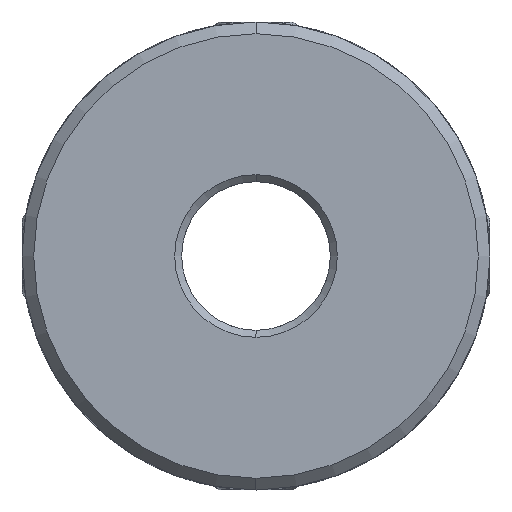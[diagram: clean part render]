
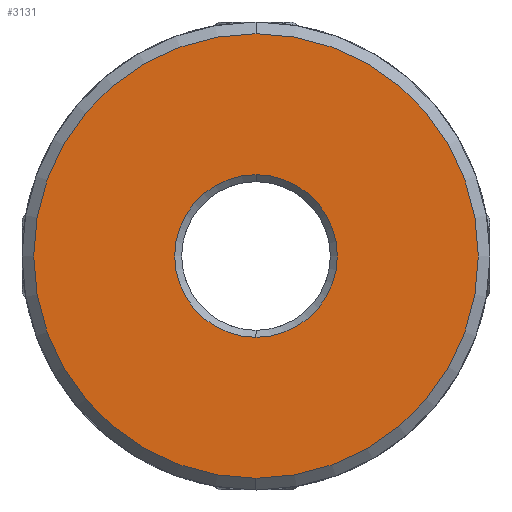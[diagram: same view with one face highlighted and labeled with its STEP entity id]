
A CAD part, front view. The second image highlights one B-rep face of the part: STEP entity #3131.
In plain terms, the highlighted planar face has unit normal (0, -1, 0).
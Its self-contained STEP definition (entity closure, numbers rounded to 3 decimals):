
#248 = CARTESIAN_POINT ( 'NONE',  ( 0., -23., 0. ) ) ;
#665 = DIRECTION ( 'NONE',  ( 0., 0., -1. ) ) ;
#896 = CARTESIAN_POINT ( 'NONE',  ( 0., -23., 9.5 ) ) ;
#911 = AXIS2_PLACEMENT_3D ( 'NONE', #1632, #3128, #943 ) ;
#917 = EDGE_CURVE ( 'NONE', #2450, #1902, #4568, .T. ) ;
#943 = DIRECTION ( 'NONE',  ( 0., 0., -1. ) ) ;
#1107 = ORIENTED_EDGE ( 'NONE', *, *, #2769, .T. ) ;
#1343 = CIRCLE ( 'NONE', #911, 3.475 ) ;
#1505 = VERTEX_POINT ( 'NONE', #8103 ) ;
#1632 = CARTESIAN_POINT ( 'NONE',  ( 0., -23., 0. ) ) ;
#1902 = VERTEX_POINT ( 'NONE', #896 ) ;
#2450 = VERTEX_POINT ( 'NONE', #6415 ) ;
#2554 = CARTESIAN_POINT ( 'NONE',  ( 0., -23., -3.475 ) ) ;
#2769 = EDGE_CURVE ( 'NONE', #1902, #2450, #8064, .T. ) ;
#3128 = DIRECTION ( 'NONE',  ( 0., 1., 0. ) ) ;
#3131 = ADVANCED_FACE ( 'NONE', ( #8302, #8660 ), #4672, .F. ) ;
#3144 = EDGE_CURVE ( 'NONE', #1505, #9368, #1343, .T. ) ;
#3669 = AXIS2_PLACEMENT_3D ( 'NONE', #9725, #5155, #5944 ) ;
#4036 = DIRECTION ( 'NONE',  ( 0., 0., -1. ) ) ;
#4387 = CARTESIAN_POINT ( 'NONE',  ( 0., -23., 0. ) ) ;
#4568 = CIRCLE ( 'NONE', #5579, 9.5 ) ;
#4672 = PLANE ( 'NONE',  #5455 ) ;
#4948 = EDGE_LOOP ( 'NONE', ( #5192, #1107 ) ) ;
#5155 = DIRECTION ( 'NONE',  ( 0., -1., 0. ) ) ;
#5192 = ORIENTED_EDGE ( 'NONE', *, *, #917, .T. ) ;
#5455 = AXIS2_PLACEMENT_3D ( 'NONE', #9298, #5491, #9233 ) ;
#5491 = DIRECTION ( 'NONE',  ( 0., 1., 0. ) ) ;
#5579 = AXIS2_PLACEMENT_3D ( 'NONE', #248, #7032, #4036 ) ;
#5944 = DIRECTION ( 'NONE',  ( 0., 0., -1. ) ) ;
#6320 = AXIS2_PLACEMENT_3D ( 'NONE', #4387, #8903, #665 ) ;
#6415 = CARTESIAN_POINT ( 'NONE',  ( 0., -23., -9.5 ) ) ;
#6698 = ORIENTED_EDGE ( 'NONE', *, *, #9224, .T. ) ;
#7032 = DIRECTION ( 'NONE',  ( 0., -1., 0. ) ) ;
#7247 = EDGE_LOOP ( 'NONE', ( #7628, #6698 ) ) ;
#7628 = ORIENTED_EDGE ( 'NONE', *, *, #3144, .T. ) ;
#8064 = CIRCLE ( 'NONE', #3669, 9.5 ) ;
#8103 = CARTESIAN_POINT ( 'NONE',  ( 0., -23., 3.475 ) ) ;
#8110 = CIRCLE ( 'NONE', #6320, 3.475 ) ;
#8302 = FACE_BOUND ( 'NONE', #7247, .T. ) ;
#8660 = FACE_OUTER_BOUND ( 'NONE', #4948, .T. ) ;
#8903 = DIRECTION ( 'NONE',  ( 0., 1., 0. ) ) ;
#9224 = EDGE_CURVE ( 'NONE', #9368, #1505, #8110, .T. ) ;
#9233 = DIRECTION ( 'NONE',  ( 0., 0., -1. ) ) ;
#9298 = CARTESIAN_POINT ( 'NONE',  ( 50., -23., -15.365 ) ) ;
#9368 = VERTEX_POINT ( 'NONE', #2554 ) ;
#9725 = CARTESIAN_POINT ( 'NONE',  ( 0., -23., 0. ) ) ;
